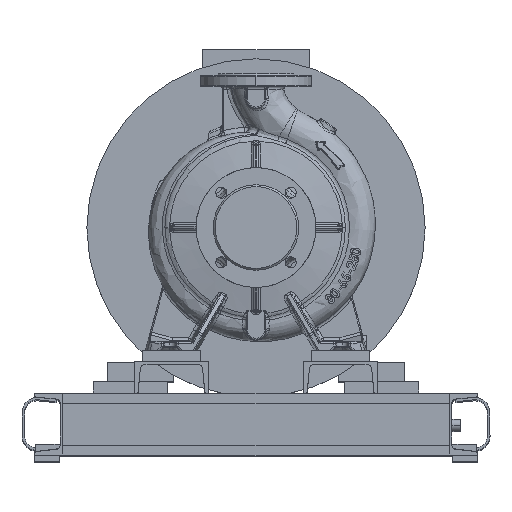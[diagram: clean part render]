
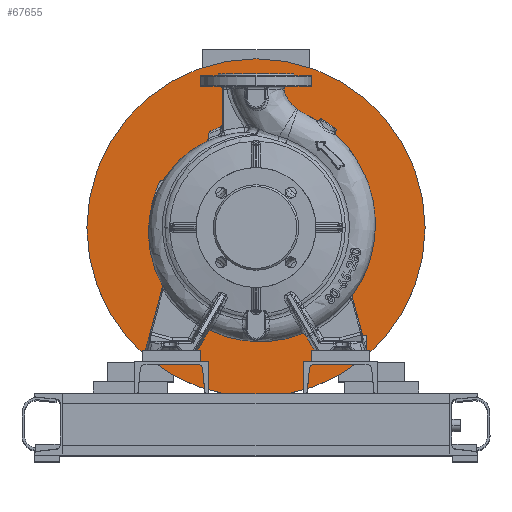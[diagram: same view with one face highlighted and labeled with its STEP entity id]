
A CAD part, top view. The second image highlights one B-rep face of the part: STEP entity #67655.
In plain terms, the highlighted planar face has unit normal (0, 0, 1).
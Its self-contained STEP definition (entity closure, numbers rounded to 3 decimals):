
#1167 = CIRCLE ( 'NONE', #72916, 125. ) ;
#4469 = VERTEX_POINT ( 'NONE', #36908 ) ;
#5513 = CARTESIAN_POINT ( 'NONE',  ( -275., 0., -274.8 ) ) ;
#11508 = EDGE_LOOP ( 'NONE', ( #85720, #74215 ) ) ;
#12634 = DIRECTION ( 'NONE',  ( 0., 0., -1. ) ) ;
#13311 = VERTEX_POINT ( 'NONE', #5513 ) ;
#14790 = DIRECTION ( 'NONE',  ( 1., 0., 0. ) ) ;
#17653 = FACE_OUTER_BOUND ( 'NONE', #30998, .T. ) ;
#18917 = EDGE_CURVE ( 'NONE', #4469, #13311, #98024, .T. ) ;
#20104 = CARTESIAN_POINT ( 'NONE',  ( 0., 125., -274.8 ) ) ;
#23569 = CARTESIAN_POINT ( 'NONE',  ( 0., 0., -274.8 ) ) ;
#23705 = AXIS2_PLACEMENT_3D ( 'NONE', #23569, #80923, #48285 ) ;
#26581 = FACE_BOUND ( 'NONE', #11508, .T. ) ;
#30998 = EDGE_LOOP ( 'NONE', ( #80277, #105297 ) ) ;
#36908 = CARTESIAN_POINT ( 'NONE',  ( 275., 0., -274.8 ) ) ;
#38536 = DIRECTION ( 'NONE',  ( 1., 0., 0. ) ) ;
#39472 = CARTESIAN_POINT ( 'NONE',  ( 0., 0., -274.8 ) ) ;
#41259 = DIRECTION ( 'NONE',  ( 0., 0., 1. ) ) ;
#42420 = EDGE_CURVE ( 'NONE', #13311, #4469, #77142, .T. ) ;
#45109 = VERTEX_POINT ( 'NONE', #57118 ) ;
#45185 = PLANE ( 'NONE',  #76340 ) ;
#47131 = EDGE_CURVE ( 'NONE', #106241, #45109, #65179, .T. ) ;
#48285 = DIRECTION ( 'NONE',  ( 1., 0., 0. ) ) ;
#52349 = DIRECTION ( 'NONE',  ( -1., 0., 0. ) ) ;
#54667 = CARTESIAN_POINT ( 'NONE',  ( 0., 0., -274.8 ) ) ;
#57118 = CARTESIAN_POINT ( 'NONE',  ( -125., 0., -274.8 ) ) ;
#58453 = AXIS2_PLACEMENT_3D ( 'NONE', #74239, #41259, #65618 ) ;
#62932 = DIRECTION ( 'NONE',  ( 0., 0., 1. ) ) ;
#65179 = CIRCLE ( 'NONE', #65785, 125. ) ;
#65618 = DIRECTION ( 'NONE',  ( 1., 0., 0. ) ) ;
#65785 = AXIS2_PLACEMENT_3D ( 'NONE', #54667, #62932, #38536 ) ;
#67655 = ADVANCED_FACE ( 'NONE', ( #26581, #17653 ), #45185, .F. ) ;
#71390 = DIRECTION ( 'NONE',  ( 0., 0., 1. ) ) ;
#72916 = AXIS2_PLACEMENT_3D ( 'NONE', #39472, #71390, #14790 ) ;
#74215 = ORIENTED_EDGE ( 'NONE', *, *, #106166, .F. ) ;
#74239 = CARTESIAN_POINT ( 'NONE',  ( 0., 0., -274.8 ) ) ;
#76340 = AXIS2_PLACEMENT_3D ( 'NONE', #20104, #12634, #52349 ) ;
#77142 = CIRCLE ( 'NONE', #23705, 275. ) ;
#80277 = ORIENTED_EDGE ( 'NONE', *, *, #18917, .T. ) ;
#80923 = DIRECTION ( 'NONE',  ( 0., 0., 1. ) ) ;
#85720 = ORIENTED_EDGE ( 'NONE', *, *, #47131, .F. ) ;
#98024 = CIRCLE ( 'NONE', #58453, 275. ) ;
#104923 = CARTESIAN_POINT ( 'NONE',  ( 125., 0., -274.8 ) ) ;
#105297 = ORIENTED_EDGE ( 'NONE', *, *, #42420, .T. ) ;
#106166 = EDGE_CURVE ( 'NONE', #45109, #106241, #1167, .T. ) ;
#106241 = VERTEX_POINT ( 'NONE', #104923 ) ;
